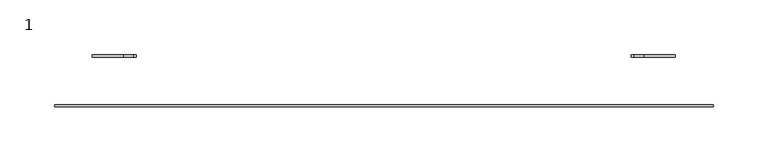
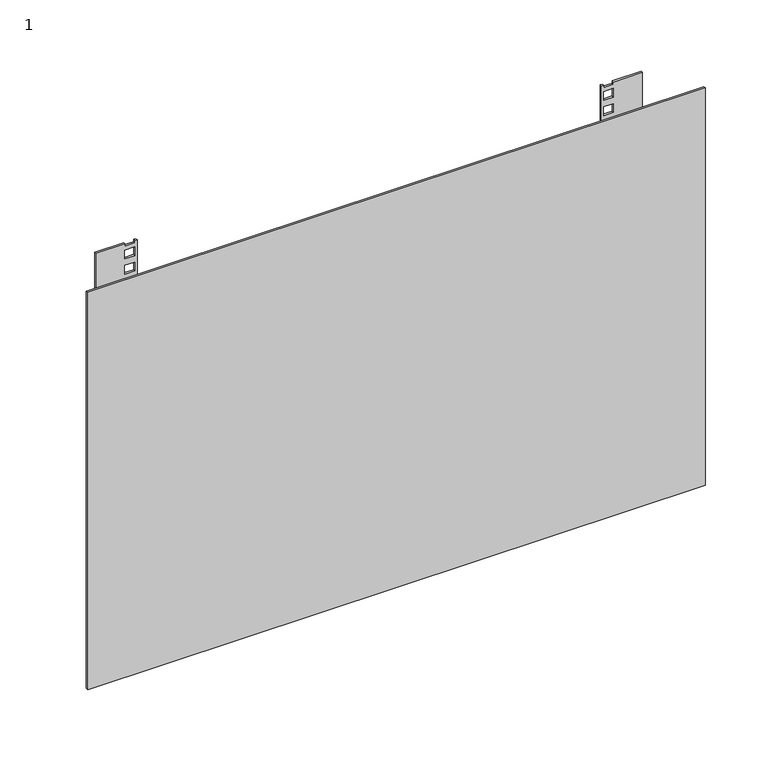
"""IFC4 building model written with IfcOpenShell, lengths in millimetres: proxy geometry, 1 : 9U 450мм металлическая дверь."""

from ifc_helpers import new_model, si_unit, frame, origin, place, context, project, spatial, polyline, outline, extrude, source, transform, mapped, element, save


def proxy_1_fc4ee2fe(model_context):
    return source(origin(), model_context, "Body", "SweptSolid", [
        extrude(outline(polyline([(20.4675, 225.3), (20.4675, 265.3), (448.4675, 265.3), (448.4675, 237.05), (446.1175, 237.05), (446.1175, 227.55), (448.4675, 227.55), (448.4675, 225.3), (20.4675, 225.3)]), holes=[polyline([(55.0175, 227.55), (55.0175, 237.05), (46.0675, 237.05), (46.0675, 227.55), (55.0175, 227.55)]), polyline([(70.6675, 227.55), (70.6675, 237.05), (61.7175, 237.05), (61.7175, 227.55), (70.6675, 227.55)]), polyline([(86.3175, 227.55), (86.3175, 237.05), (77.3675, 237.05), (77.3675, 227.55), (86.3175, 227.55)]), polyline([(99.4675, 237.05), (90.5175, 237.05), (90.5175, 227.55), (99.4675, 227.55), (99.4675, 237.05)]), polyline([(115.1175, 237.05), (106.1675, 237.05), (106.1675, 227.55), (115.1175, 227.55), (115.1175, 237.05)]), polyline([(130.7675, 237.05), (121.8175, 237.05), (121.8175, 227.55), (130.7675, 227.55), (130.7675, 237.05)]), polyline([(143.9175, 237.05), (134.9675, 237.05), (134.9675, 227.55), (143.9175, 227.55), (143.9175, 237.05)]), polyline([(159.5675, 237.05), (150.6175, 237.05), (150.6175, 227.55), (159.5675, 227.55), (159.5675, 237.05)]), polyline([(175.2175, 237.05), (166.2675, 237.05), (166.2675, 227.55), (175.2175, 227.55), (175.2175, 237.05)]), polyline([(188.3675, 237.05), (179.4175, 237.05), (179.4175, 227.55), (188.3675, 227.55), (188.3675, 237.05)]), polyline([(204.0175, 237.05), (195.0675, 237.05), (195.0675, 227.55), (204.0175, 227.55), (204.0175, 237.05)]), polyline([(219.6675, 237.05), (210.7175, 237.05), (210.7175, 227.55), (219.6675, 227.55), (219.6675, 237.05)]), polyline([(232.8175, 237.05), (223.8675, 237.05), (223.8675, 227.55), (232.8175, 227.55), (232.8175, 237.05)]), polyline([(248.4675, 237.05), (239.5175, 237.05), (239.5175, 227.55), (248.4675, 227.55), (248.4675, 237.05)]), polyline([(264.1175, 237.05), (255.1675, 237.05), (255.1675, 227.55), (264.1175, 227.55), (264.1175, 237.05)]), polyline([(277.2675, 237.05), (268.3175, 237.05), (268.3175, 227.55), (277.2675, 227.55), (277.2675, 237.05)]), polyline([(292.9175, 237.05), (283.9675, 237.05), (283.9675, 227.55), (292.9175, 227.55), (292.9175, 237.05)]), polyline([(308.5675, 237.05), (299.6175, 237.05), (299.6175, 227.55), (308.5675, 227.55), (308.5675, 237.05)]), polyline([(321.7175, 237.05), (312.7675, 237.05), (312.7675, 227.55), (321.7175, 227.55), (321.7175, 237.05)]), polyline([(337.3675, 237.05), (328.4175, 237.05), (328.4175, 227.55), (337.3675, 227.55), (337.3675, 237.05)]), polyline([(353.0175, 237.05), (344.0675, 237.05), (344.0675, 227.55), (353.0175, 227.55), (353.0175, 237.05)]), polyline([(366.1675, 237.05), (357.2175, 237.05), (357.2175, 227.55), (366.1675, 227.55), (366.1675, 237.05)]), polyline([(381.8175, 237.05), (372.8675, 237.05), (372.8675, 227.55), (381.8175, 227.55), (381.8175, 237.05)]), polyline([(397.4675, 237.05), (388.5175, 237.05), (388.5175, 227.55), (397.4675, 227.55), (397.4675, 237.05)]), polyline([(410.6175, 237.05), (401.6675, 237.05), (401.6675, 227.55), (410.6175, 227.55), (410.6175, 237.05)]), polyline([(426.2675, 237.05), (417.3175, 237.05), (417.3175, 227.55), (426.2675, 227.55), (426.2675, 237.05)]), polyline([(441.9175, 237.05), (432.9675, 237.05), (432.9675, 227.55), (441.9175, 227.55), (441.9175, 237.05)])]), frame((0.0, -179.6777479, 0.0), z_axis=(0.0, 1.0, 0.0), x_axis=(0.0, 0.0, 1.0)), (0.0, 0.0, 1.0), 2.0),
        extrude(outline(polyline([(20.4675, -265.7), (20.4675, -225.7), (448.4675, -225.7), (448.4675, -227.95), (446.1175, -227.95), (446.1175, -237.45), (448.4675, -237.45), (448.4675, -265.7), (20.4675, -265.7)]), holes=[polyline([(55.0175, -237.45), (55.0175, -227.95), (46.0675, -227.95), (46.0675, -237.45), (55.0175, -237.45)]), polyline([(70.6675, -237.45), (70.6675, -227.95), (61.7175, -227.95), (61.7175, -237.45), (70.6675, -237.45)]), polyline([(86.3175, -237.45), (86.3175, -227.95), (77.3675, -227.95), (77.3675, -237.45), (86.3175, -237.45)]), polyline([(90.5175, -237.45), (99.4675, -237.45), (99.4675, -227.95), (90.5175, -227.95), (90.5175, -237.45)]), polyline([(106.1675, -237.45), (115.1175, -237.45), (115.1175, -227.95), (106.1675, -227.95), (106.1675, -237.45)]), polyline([(121.8175, -237.45), (130.7675, -237.45), (130.7675, -227.95), (121.8175, -227.95), (121.8175, -237.45)]), polyline([(134.9675, -237.45), (143.9175, -237.45), (143.9175, -227.95), (134.9675, -227.95), (134.9675, -237.45)]), polyline([(150.6175, -237.45), (159.5675, -237.45), (159.5675, -227.95), (150.6175, -227.95), (150.6175, -237.45)]), polyline([(166.2675, -237.45), (175.2175, -237.45), (175.2175, -227.95), (166.2675, -227.95), (166.2675, -237.45)]), polyline([(179.4175, -237.45), (188.3675, -237.45), (188.3675, -227.95), (179.4175, -227.95), (179.4175, -237.45)]), polyline([(195.0675, -237.45), (204.0175, -237.45), (204.0175, -227.95), (195.0675, -227.95), (195.0675, -237.45)]), polyline([(210.7175, -237.45), (219.6675, -237.45), (219.6675, -227.95), (210.7175, -227.95), (210.7175, -237.45)]), polyline([(223.8675, -237.45), (232.8175, -237.45), (232.8175, -227.95), (223.8675, -227.95), (223.8675, -237.45)]), polyline([(239.5175, -237.45), (248.4675, -237.45), (248.4675, -227.95), (239.5175, -227.95), (239.5175, -237.45)]), polyline([(255.1675, -237.45), (264.1175, -237.45), (264.1175, -227.95), (255.1675, -227.95), (255.1675, -237.45)]), polyline([(268.3175, -237.45), (277.2675, -237.45), (277.2675, -227.95), (268.3175, -227.95), (268.3175, -237.45)]), polyline([(283.9675, -237.45), (292.9175, -237.45), (292.9175, -227.95), (283.9675, -227.95), (283.9675, -237.45)]), polyline([(299.6175, -237.45), (308.5675, -237.45), (308.5675, -227.95), (299.6175, -227.95), (299.6175, -237.45)]), polyline([(312.7675, -237.45), (321.7175, -237.45), (321.7175, -227.95), (312.7675, -227.95), (312.7675, -237.45)]), polyline([(328.4175, -237.45), (337.3675, -237.45), (337.3675, -227.95), (328.4175, -227.95), (328.4175, -237.45)]), polyline([(344.0675, -237.45), (353.0175, -237.45), (353.0175, -227.95), (344.0675, -227.95), (344.0675, -237.45)]), polyline([(357.2175, -237.45), (366.1675, -237.45), (366.1675, -227.95), (357.2175, -227.95), (357.2175, -237.45)]), polyline([(372.8675, -237.45), (381.8175, -237.45), (381.8175, -227.95), (372.8675, -227.95), (372.8675, -237.45)]), polyline([(388.5175, -237.45), (397.4675, -237.45), (397.4675, -227.95), (388.5175, -227.95), (388.5175, -237.45)]), polyline([(401.6675, -237.45), (410.6175, -237.45), (410.6175, -227.95), (401.6675, -227.95), (401.6675, -237.45)]), polyline([(417.3175, -237.45), (426.2675, -237.45), (426.2675, -227.95), (417.3175, -227.95), (417.3175, -237.45)]), polyline([(432.9675, -237.45), (441.9175, -237.45), (441.9175, -227.95), (432.9675, -227.95), (432.9675, -237.45)])]), frame((0.0, -179.6777479, 0.0), z_axis=(0.0, 1.0, 0.0), x_axis=(0.0, 0.0, 1.0)), (0.0, 0.0, 1.0), 2.0),
        extrude(outline(polyline([(-300.0, -223.0), (300.0, -223.0), (300.0, -225.0), (-300.0, -225.0), (-300.0, -223.0)])), frame((0.0, 0.0, 40.0), z_axis=(0.0, 0.0, 1.0), x_axis=(1.0, 0.0, 0.0)), (0.0, 0.0, 1.0), 408.0),
    ])


if __name__ == "__main__":
    model = new_model("IFC4")
    model_context = context("Model", 3, world=origin())
    ifc_project = project(units=[si_unit("LENGTHUNIT", "METRE", prefix="MILLI")], contexts=[model_context])
    site = spatial("IfcSite", under=ifc_project)
    building = spatial("IfcBuilding", under=site)
    placement = place(None, origin())
    proxy_1_shape = proxy_1_fc4ee2fe(model_context)
    element("IfcBuildingElementProxy", 1, Name="1 : 9U 450мм металлическая дверь", ObjectType="1 : 9U 450мм металлическая дверь", at=placement, inside=building, context=model_context, shape_type="MappedRepresentation", body=[
        mapped(proxy_1_shape, transform((0.0, 0.0, 0.0), x_axis=(1.0, 0.0, 0.0), y_axis=(0.0, 1.0, 0.0), z_axis=(0.0, 0.0, 1.0))),
    ])
    save(model, "model.ifc")
